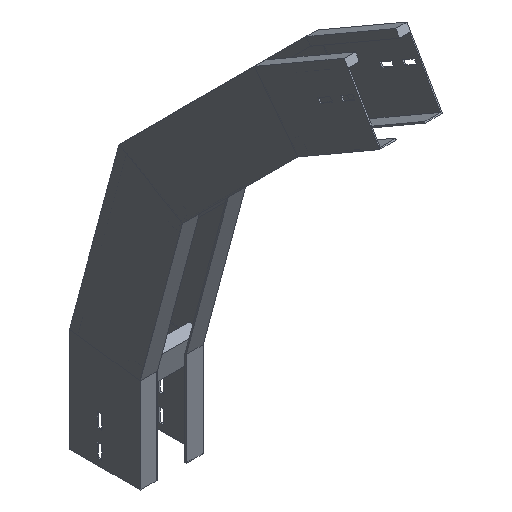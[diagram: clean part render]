
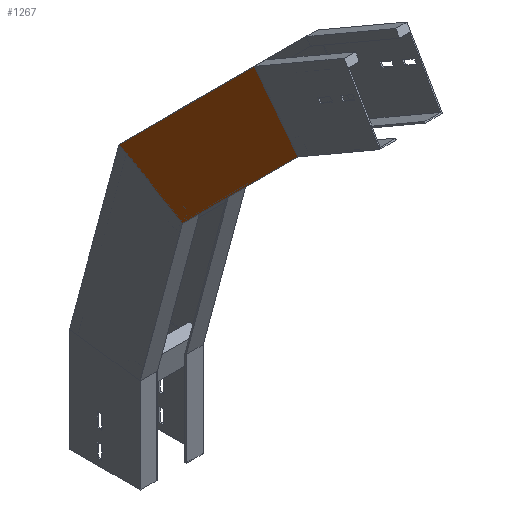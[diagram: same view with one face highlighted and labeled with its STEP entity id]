
A CAD part, isometric view. The second image highlights one B-rep face of the part: STEP entity #1267.
In plain terms, the highlighted planar face has unit normal (-1, 0, 0) as drawn and (1, 0, 0) by its records, which use the part's own axes.
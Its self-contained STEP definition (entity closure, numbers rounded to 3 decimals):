
#6 = EDGE_CURVE ( 'NONE', #1554, #732, #719, .T. ) ;
#30 = DIRECTION ( 'NONE',  ( 0., -0.866, -0.5 ) ) ;
#67 = DIRECTION ( 'NONE',  ( 0., -0.259, 0.966 ) ) ;
#151 = AXIS2_PLACEMENT_3D ( 'NONE', #636, #649, #1133 ) ;
#277 = VECTOR ( 'NONE', #812, 1000. ) ;
#367 = CARTESIAN_POINT ( 'NONE',  ( 0., 112.909, 163.284 ) ) ;
#394 = ORIENTED_EDGE ( 'NONE', *, *, #602, .F. ) ;
#435 = ORIENTED_EDGE ( 'NONE', *, *, #1574, .T. ) ;
#464 = CARTESIAN_POINT ( 'NONE',  ( 0., -128.762, 364.536 ) ) ;
#505 = ORIENTED_EDGE ( 'NONE', *, *, #6, .T. ) ;
#524 = CARTESIAN_POINT ( 'NONE',  ( 0., 33.831, 458.409 ) ) ;
#550 = LINE ( 'NONE', #835, #277 ) ;
#577 = VERTEX_POINT ( 'NONE', #680 ) ;
#578 = CARTESIAN_POINT ( 'NONE',  ( 0., 4.243, 134.167 ) ) ;
#602 = EDGE_CURVE ( 'NONE', #1256, #577, #550, .T. ) ;
#636 = CARTESIAN_POINT ( 'NONE',  ( 0., 4.243, 134.167 ) ) ;
#640 = DIRECTION ( 'NONE',  ( 0., -0.259, 0.966 ) ) ;
#648 = VECTOR ( 'NONE', #67, 1000. ) ;
#649 = DIRECTION ( 'NONE',  ( 1., 0., 0. ) ) ;
#680 = CARTESIAN_POINT ( 'NONE',  ( 0., 0., 150. ) ) ;
#689 = VECTOR ( 'NONE', #30, 1000. ) ;
#719 = LINE ( 'NONE', #464, #689 ) ;
#732 = VERTEX_POINT ( 'NONE', #962 ) ;
#749 = EDGE_LOOP ( 'NONE', ( #435, #505, #1614, #394 ) ) ;
#776 = LINE ( 'NONE', #367, #1187 ) ;
#787 = EDGE_CURVE ( 'NONE', #577, #732, #1077, .T. ) ;
#812 = DIRECTION ( 'NONE',  ( 0., -0.991, -0.131 ) ) ;
#835 = CARTESIAN_POINT ( 'NONE',  ( 0., -19.411, 147.444 ) ) ;
#962 = CARTESIAN_POINT ( 'NONE',  ( 0., -67.034, 400.175 ) ) ;
#987 = CARTESIAN_POINT ( 'NONE',  ( 0., 112.5, 164.811 ) ) ;
#1077 = LINE ( 'NONE', #578, #648 ) ;
#1133 = DIRECTION ( 'NONE',  ( 0., 0., -1. ) ) ;
#1187 = VECTOR ( 'NONE', #640, 1000. ) ;
#1256 = VERTEX_POINT ( 'NONE', #987 ) ;
#1267 = ADVANCED_FACE ( 'NONE', ( #1525 ), #1393, .T. ) ;
#1393 = PLANE ( 'NONE',  #151 ) ;
#1525 = FACE_OUTER_BOUND ( 'NONE', #749, .T. ) ;
#1554 = VERTEX_POINT ( 'NONE', #524 ) ;
#1574 = EDGE_CURVE ( 'NONE', #1256, #1554, #776, .T. ) ;
#1614 = ORIENTED_EDGE ( 'NONE', *, *, #787, .F. ) ;
